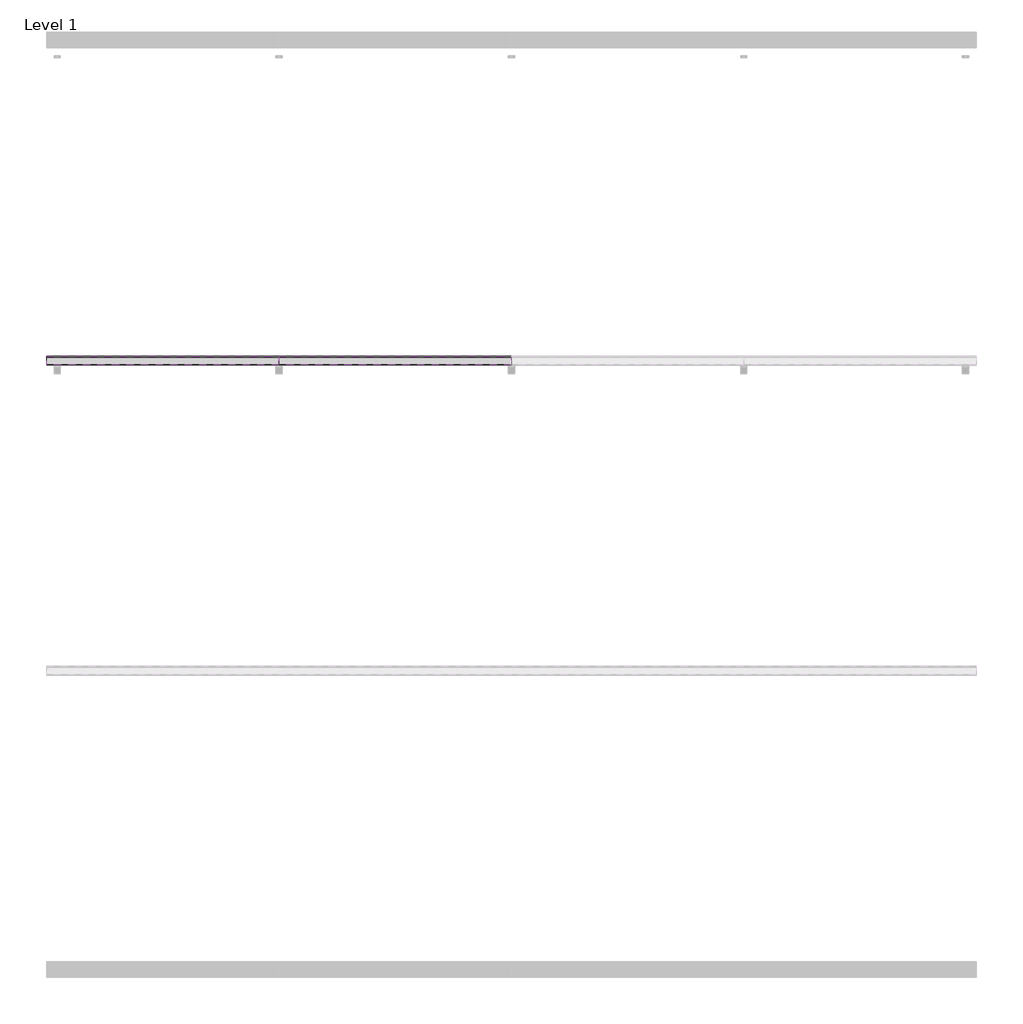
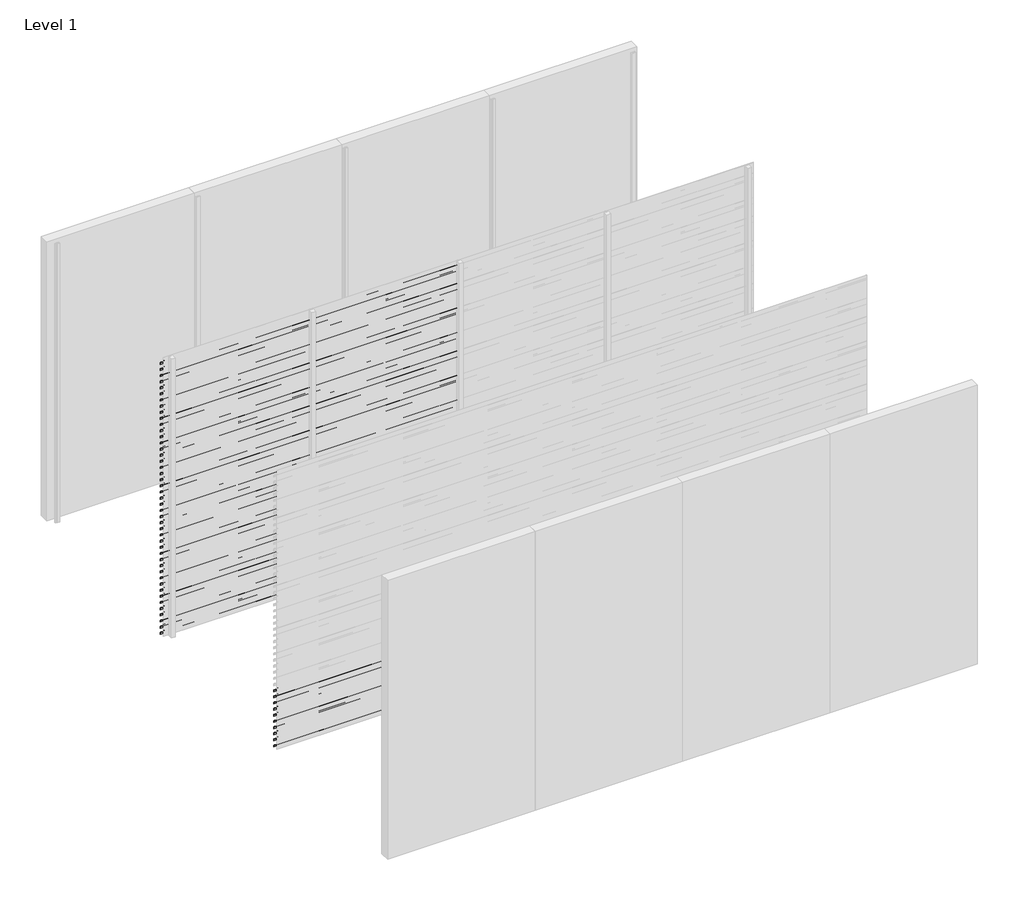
# One storey, part 11 of 25: 87 proxies.
"""IFC4 building model written with IfcOpenShell, lengths in millimetres."""

from ifc_helpers import new_model, si_unit, frame, origin, place, context, project, spatial, polyline, outline, extrude, element, save

model = new_model("IFC4")

# Units and contexts
model_context = context("Model", 3, world=origin())
ifc_project = project(units=[si_unit("LENGTHUNIT", "METRE", prefix="MILLI")], contexts=[model_context])

# Site, building, storey
site = spatial("IfcSite", under=ifc_project)
building = spatial("IfcBuilding", under=site)
storey = spatial("IfcBuildingStorey", under=building, Name="Level 1", Elevation=0.0)

# Proxies
placement = place(None, origin())
element("IfcBuildingElementProxy", 1, Name="Wall Sweeps", at=placement, inside=storey, context=model_context, shape_type="SweptSolid", body=[
    extrude(outline(polyline([(-29943.0, 2913.5), (-29943.0, 2893.5), (-29944.25, 2894.2216933), (-29944.25, 2912.7872415), (-29998.0, 2950.3158044), (-29998.0, 2970.0), (-29996.75, 2970.0), (-29996.75, 2951.0285629), (-29943.0, 2913.5)])), frame((0.0, 0.0, 0.0), z_axis=(1.0, 0.0, 0.0), x_axis=(0.0, 1.0, 0.0)), (0.0, 0.0, 1.0), 1500.0),
])
element("IfcBuildingElementProxy", 2, Name="Wall Sweeps", at=placement, inside=storey, context=model_context, shape_type="SweptSolid", body=[
    extrude(outline(polyline([(-29943.0, 2847.5), (-29943.0, 2827.5), (-29944.25, 2828.2216933), (-29944.25, 2846.7872415), (-29998.0, 2884.3158044), (-29998.0, 2904.0), (-29996.75, 2904.0), (-29996.75, 2885.0285629), (-29943.0, 2847.5)])), frame((0.0, 0.0, 0.0), z_axis=(1.0, 0.0, 0.0), x_axis=(0.0, 1.0, 0.0)), (0.0, 0.0, 1.0), 1500.0),
])
element("IfcBuildingElementProxy", 3, Name="Wall Sweeps", at=placement, inside=storey, context=model_context, shape_type="SweptSolid", body=[
    extrude(outline(polyline([(-29943.0, 2781.5), (-29943.0, 2761.5), (-29944.25, 2762.2216933), (-29944.25, 2780.7872415), (-29998.0, 2818.3158044), (-29998.0, 2838.0), (-29996.75, 2838.0), (-29996.75, 2819.0285629), (-29943.0, 2781.5)])), frame((0.0, 0.0, 0.0), z_axis=(1.0, 0.0, 0.0), x_axis=(0.0, 1.0, 0.0)), (0.0, 0.0, 1.0), 1500.0),
])
element("IfcBuildingElementProxy", 4, Name="Wall Sweeps", at=placement, inside=storey, context=model_context, shape_type="SweptSolid", body=[
    extrude(outline(polyline([(-29943.0, 2715.5), (-29943.0, 2695.5), (-29944.25, 2696.2216933), (-29944.25, 2714.7872415), (-29998.0, 2752.3158044), (-29998.0, 2772.0), (-29996.75, 2772.0), (-29996.75, 2753.0285629), (-29943.0, 2715.5)])), frame((0.0, 0.0, 0.0), z_axis=(1.0, 0.0, 0.0), x_axis=(0.0, 1.0, 0.0)), (0.0, 0.0, 1.0), 1500.0),
])
element("IfcBuildingElementProxy", 5, Name="Wall Sweeps", at=placement, inside=storey, context=model_context, shape_type="SweptSolid", body=[
    extrude(outline(polyline([(-29943.0, 2649.5), (-29943.0, 2629.5), (-29944.25, 2630.2216933), (-29944.25, 2648.7872415), (-29998.0, 2686.3158044), (-29998.0, 2706.0), (-29996.75, 2706.0), (-29996.75, 2687.0285629), (-29943.0, 2649.5)])), frame((0.0, 0.0, 0.0), z_axis=(1.0, 0.0, 0.0), x_axis=(0.0, 1.0, 0.0)), (0.0, 0.0, 1.0), 1500.0),
])
element("IfcBuildingElementProxy", 6, Name="Wall Sweeps", at=placement, inside=storey, context=model_context, shape_type="SweptSolid", body=[
    extrude(outline(polyline([(-29943.0, 2583.5), (-29943.0, 2563.5), (-29944.25, 2564.2216933), (-29944.25, 2582.7872415), (-29998.0, 2620.3158044), (-29998.0, 2640.0), (-29996.75, 2640.0), (-29996.75, 2621.0285629), (-29943.0, 2583.5)])), frame((0.0, 0.0, 0.0), z_axis=(1.0, 0.0, 0.0), x_axis=(0.0, 1.0, 0.0)), (0.0, 0.0, 1.0), 1500.0),
])
element("IfcBuildingElementProxy", 7, Name="Wall Sweeps", at=placement, inside=storey, context=model_context, shape_type="SweptSolid", body=[
    extrude(outline(polyline([(-29943.0, 2517.5), (-29943.0, 2497.5), (-29944.25, 2498.2216933), (-29944.25, 2516.7872415), (-29998.0, 2554.3158044), (-29998.0, 2574.0), (-29996.75, 2574.0), (-29996.75, 2555.0285629), (-29943.0, 2517.5)])), frame((0.0, 0.0, 0.0), z_axis=(1.0, 0.0, 0.0), x_axis=(0.0, 1.0, 0.0)), (0.0, 0.0, 1.0), 1500.0),
])
element("IfcBuildingElementProxy", 8, Name="Wall Sweeps", at=placement, inside=storey, context=model_context, shape_type="SweptSolid", body=[
    extrude(outline(polyline([(-29943.0, 2451.5), (-29943.0, 2431.5), (-29944.25, 2432.2216933), (-29944.25, 2450.7872415), (-29998.0, 2488.3158044), (-29998.0, 2508.0), (-29996.75, 2508.0), (-29996.75, 2489.0285629), (-29943.0, 2451.5)])), frame((0.0, 0.0, 0.0), z_axis=(1.0, 0.0, 0.0), x_axis=(0.0, 1.0, 0.0)), (0.0, 0.0, 1.0), 1500.0),
])
element("IfcBuildingElementProxy", 9, Name="Wall Sweeps", at=placement, inside=storey, context=model_context, shape_type="SweptSolid", body=[
    extrude(outline(polyline([(-29943.0, 2385.5), (-29943.0, 2365.5), (-29944.25, 2366.2216933), (-29944.25, 2384.7872415), (-29998.0, 2422.3158044), (-29998.0, 2442.0), (-29996.75, 2442.0), (-29996.75, 2423.0285629), (-29943.0, 2385.5)])), frame((0.0, 0.0, 0.0), z_axis=(1.0, 0.0, 0.0), x_axis=(0.0, 1.0, 0.0)), (0.0, 0.0, 1.0), 1500.0),
])
element("IfcBuildingElementProxy", 10, Name="Wall Sweeps", at=placement, inside=storey, context=model_context, shape_type="SweptSolid", body=[
    extrude(outline(polyline([(-29943.0, 2319.5), (-29943.0, 2299.5), (-29944.25, 2300.2216933), (-29944.25, 2318.7872415), (-29998.0, 2356.3158044), (-29998.0, 2376.0), (-29996.75, 2376.0), (-29996.75, 2357.0285629), (-29943.0, 2319.5)])), frame((0.0, 0.0, 0.0), z_axis=(1.0, 0.0, 0.0), x_axis=(0.0, 1.0, 0.0)), (0.0, 0.0, 1.0), 1500.0),
])
element("IfcBuildingElementProxy", 11, Name="Wall Sweeps", at=placement, inside=storey, context=model_context, shape_type="SweptSolid", body=[
    extrude(outline(polyline([(-29943.0, 2253.5), (-29943.0, 2233.5), (-29944.25, 2234.2216933), (-29944.25, 2252.7872415), (-29998.0, 2290.3158044), (-29998.0, 2310.0), (-29996.75, 2310.0), (-29996.75, 2291.0285629), (-29943.0, 2253.5)])), frame((0.0, 0.0, 0.0), z_axis=(1.0, 0.0, 0.0), x_axis=(0.0, 1.0, 0.0)), (0.0, 0.0, 1.0), 1500.0),
])
element("IfcBuildingElementProxy", 12, Name="Wall Sweeps", at=placement, inside=storey, context=model_context, shape_type="SweptSolid", body=[
    extrude(outline(polyline([(-29943.0, 2187.5), (-29943.0, 2167.5), (-29944.25, 2168.2216933), (-29944.25, 2186.7872415), (-29998.0, 2224.3158044), (-29998.0, 2244.0), (-29996.75, 2244.0), (-29996.75, 2225.0285629), (-29943.0, 2187.5)])), frame((0.0, 0.0, 0.0), z_axis=(1.0, 0.0, 0.0), x_axis=(0.0, 1.0, 0.0)), (0.0, 0.0, 1.0), 1500.0),
])
element("IfcBuildingElementProxy", 13, Name="Wall Sweeps", at=placement, inside=storey, context=model_context, shape_type="SweptSolid", body=[
    extrude(outline(polyline([(-29943.0, 2121.5), (-29943.0, 2101.5), (-29944.25, 2102.2216933), (-29944.25, 2120.7872415), (-29998.0, 2158.3158044), (-29998.0, 2178.0), (-29996.75, 2178.0), (-29996.75, 2159.0285629), (-29943.0, 2121.5)])), frame((0.0, 0.0, 0.0), z_axis=(1.0, 0.0, 0.0), x_axis=(0.0, 1.0, 0.0)), (0.0, 0.0, 1.0), 1500.0),
])
element("IfcBuildingElementProxy", 14, Name="Wall Sweeps", at=placement, inside=storey, context=model_context, shape_type="SweptSolid", body=[
    extrude(outline(polyline([(-29943.0, 2055.5), (-29943.0, 2035.5), (-29944.25, 2036.2216933), (-29944.25, 2054.7872415), (-29998.0, 2092.3158044), (-29998.0, 2112.0), (-29996.75, 2112.0), (-29996.75, 2093.0285629), (-29943.0, 2055.5)])), frame((0.0, 0.0, 0.0), z_axis=(1.0, 0.0, 0.0), x_axis=(0.0, 1.0, 0.0)), (0.0, 0.0, 1.0), 1500.0),
])
element("IfcBuildingElementProxy", 15, Name="Wall Sweeps", at=placement, inside=storey, context=model_context, shape_type="SweptSolid", body=[
    extrude(outline(polyline([(-29943.0, 1989.5), (-29943.0, 1969.5), (-29944.25, 1970.2216933), (-29944.25, 1988.7872415), (-29998.0, 2026.3158044), (-29998.0, 2046.0), (-29996.75, 2046.0), (-29996.75, 2027.0285629), (-29943.0, 1989.5)])), frame((0.0, 0.0, 0.0), z_axis=(1.0, 0.0, 0.0), x_axis=(0.0, 1.0, 0.0)), (0.0, 0.0, 1.0), 1500.0),
])
element("IfcBuildingElementProxy", 16, Name="Wall Sweeps", at=placement, inside=storey, context=model_context, shape_type="SweptSolid", body=[
    extrude(outline(polyline([(-29943.0, 1923.5), (-29943.0, 1903.5), (-29944.25, 1904.2216933), (-29944.25, 1922.7872415), (-29998.0, 1960.3158044), (-29998.0, 1980.0), (-29996.75, 1980.0), (-29996.75, 1961.0285629), (-29943.0, 1923.5)])), frame((0.0, 0.0, 0.0), z_axis=(1.0, 0.0, 0.0), x_axis=(0.0, 1.0, 0.0)), (0.0, 0.0, 1.0), 1500.0),
])
element("IfcBuildingElementProxy", 17, Name="Wall Sweeps", at=placement, inside=storey, context=model_context, shape_type="SweptSolid", body=[
    extrude(outline(polyline([(-29943.0, 1857.5), (-29943.0, 1837.5), (-29944.25, 1838.2216933), (-29944.25, 1856.7872415), (-29998.0, 1894.3158044), (-29998.0, 1914.0), (-29996.75, 1914.0), (-29996.75, 1895.0285629), (-29943.0, 1857.5)])), frame((0.0, 0.0, 0.0), z_axis=(1.0, 0.0, 0.0), x_axis=(0.0, 1.0, 0.0)), (0.0, 0.0, 1.0), 1500.0),
])
element("IfcBuildingElementProxy", 18, Name="Wall Sweeps", at=placement, inside=storey, context=model_context, shape_type="SweptSolid", body=[
    extrude(outline(polyline([(-29943.0, 1791.5), (-29943.0, 1771.5), (-29944.25, 1772.2216933), (-29944.25, 1790.7872415), (-29998.0, 1828.3158044), (-29998.0, 1848.0), (-29996.75, 1848.0), (-29996.75, 1829.0285629), (-29943.0, 1791.5)])), frame((0.0, 0.0, 0.0), z_axis=(1.0, 0.0, 0.0), x_axis=(0.0, 1.0, 0.0)), (0.0, 0.0, 1.0), 1500.0),
])
element("IfcBuildingElementProxy", 19, Name="Wall Sweeps", at=placement, inside=storey, context=model_context, shape_type="SweptSolid", body=[
    extrude(outline(polyline([(-29943.0, 1725.5), (-29943.0, 1705.5), (-29944.25, 1706.2216933), (-29944.25, 1724.7872415), (-29998.0, 1762.3158044), (-29998.0, 1782.0), (-29996.75, 1782.0), (-29996.75, 1763.0285629), (-29943.0, 1725.5)])), frame((0.0, 0.0, 0.0), z_axis=(1.0, 0.0, 0.0), x_axis=(0.0, 1.0, 0.0)), (0.0, 0.0, 1.0), 1500.0),
])
element("IfcBuildingElementProxy", 20, Name="Wall Sweeps", at=placement, inside=storey, context=model_context, shape_type="SweptSolid", body=[
    extrude(outline(polyline([(-29943.0, 1659.5), (-29943.0, 1639.5), (-29944.25, 1640.2216933), (-29944.25, 1658.7872415), (-29998.0, 1696.3158044), (-29998.0, 1716.0), (-29996.75, 1716.0), (-29996.75, 1697.0285629), (-29943.0, 1659.5)])), frame((0.0, 0.0, 0.0), z_axis=(1.0, 0.0, 0.0), x_axis=(0.0, 1.0, 0.0)), (0.0, 0.0, 1.0), 1500.0),
])
element("IfcBuildingElementProxy", 21, Name="Wall Sweeps", at=placement, inside=storey, context=model_context, shape_type="SweptSolid", body=[
    extrude(outline(polyline([(-29943.0, 1593.5), (-29943.0, 1573.5), (-29944.25, 1574.2216933), (-29944.25, 1592.7872415), (-29998.0, 1630.3158044), (-29998.0, 1650.0), (-29996.75, 1650.0), (-29996.75, 1631.0285629), (-29943.0, 1593.5)])), frame((0.0, 0.0, 0.0), z_axis=(1.0, 0.0, 0.0), x_axis=(0.0, 1.0, 0.0)), (0.0, 0.0, 1.0), 1500.0),
])
element("IfcBuildingElementProxy", 22, Name="Wall Sweeps", at=placement, inside=storey, context=model_context, shape_type="SweptSolid", body=[
    extrude(outline(polyline([(-29943.0, 1527.5), (-29943.0, 1507.5), (-29944.25, 1508.2216933), (-29944.25, 1526.7872415), (-29998.0, 1564.3158044), (-29998.0, 1584.0), (-29996.75, 1584.0), (-29996.75, 1565.0285629), (-29943.0, 1527.5)])), frame((0.0, 0.0, 0.0), z_axis=(1.0, 0.0, 0.0), x_axis=(0.0, 1.0, 0.0)), (0.0, 0.0, 1.0), 1500.0),
])
element("IfcBuildingElementProxy", 23, Name="Wall Sweeps", at=placement, inside=storey, context=model_context, shape_type="SweptSolid", body=[
    extrude(outline(polyline([(-29943.0, 1461.5), (-29943.0, 1441.5), (-29944.25, 1442.2216933), (-29944.25, 1460.7872415), (-29998.0, 1498.3158044), (-29998.0, 1518.0), (-29996.75, 1518.0), (-29996.75, 1499.0285629), (-29943.0, 1461.5)])), frame((0.0, 0.0, 0.0), z_axis=(1.0, 0.0, 0.0), x_axis=(0.0, 1.0, 0.0)), (0.0, 0.0, 1.0), 1500.0),
])
element("IfcBuildingElementProxy", 24, Name="Wall Sweeps", at=placement, inside=storey, context=model_context, shape_type="SweptSolid", body=[
    extrude(outline(polyline([(-29943.0, 1395.5), (-29943.0, 1375.5), (-29944.25, 1376.2216933), (-29944.25, 1394.7872415), (-29998.0, 1432.3158044), (-29998.0, 1452.0), (-29996.75, 1452.0), (-29996.75, 1433.0285629), (-29943.0, 1395.5)])), frame((0.0, 0.0, 0.0), z_axis=(1.0, 0.0, 0.0), x_axis=(0.0, 1.0, 0.0)), (0.0, 0.0, 1.0), 1500.0),
])
element("IfcBuildingElementProxy", 25, Name="Wall Sweeps", at=placement, inside=storey, context=model_context, shape_type="SweptSolid", body=[
    extrude(outline(polyline([(-29943.0, 1329.5), (-29943.0, 1309.5), (-29944.25, 1310.2216933), (-29944.25, 1328.7872415), (-29998.0, 1366.3158044), (-29998.0, 1386.0), (-29996.75, 1386.0), (-29996.75, 1367.0285629), (-29943.0, 1329.5)])), frame((0.0, 0.0, 0.0), z_axis=(1.0, 0.0, 0.0), x_axis=(0.0, 1.0, 0.0)), (0.0, 0.0, 1.0), 1500.0),
])
element("IfcBuildingElementProxy", 26, Name="Wall Sweeps", at=placement, inside=storey, context=model_context, shape_type="SweptSolid", body=[
    extrude(outline(polyline([(-29943.0, 1263.5), (-29943.0, 1243.5), (-29944.25, 1244.2216933), (-29944.25, 1262.7872415), (-29998.0, 1300.3158044), (-29998.0, 1320.0), (-29996.75, 1320.0), (-29996.75, 1301.0285629), (-29943.0, 1263.5)])), frame((0.0, 0.0, 0.0), z_axis=(1.0, 0.0, 0.0), x_axis=(0.0, 1.0, 0.0)), (0.0, 0.0, 1.0), 1500.0),
])
element("IfcBuildingElementProxy", 27, Name="Wall Sweeps", at=placement, inside=storey, context=model_context, shape_type="SweptSolid", body=[
    extrude(outline(polyline([(-29943.0, 1197.5), (-29943.0, 1177.5), (-29944.25, 1178.2216933), (-29944.25, 1196.7872415), (-29998.0, 1234.3158044), (-29998.0, 1254.0), (-29996.75, 1254.0), (-29996.75, 1235.0285629), (-29943.0, 1197.5)])), frame((0.0, 0.0, 0.0), z_axis=(1.0, 0.0, 0.0), x_axis=(0.0, 1.0, 0.0)), (0.0, 0.0, 1.0), 1500.0),
])
element("IfcBuildingElementProxy", 28, Name="Wall Sweeps", at=placement, inside=storey, context=model_context, shape_type="SweptSolid", body=[
    extrude(outline(polyline([(-29943.0, 1131.5), (-29943.0, 1111.5), (-29944.25, 1112.2216933), (-29944.25, 1130.7872415), (-29998.0, 1168.3158044), (-29998.0, 1188.0), (-29996.75, 1188.0), (-29996.75, 1169.0285629), (-29943.0, 1131.5)])), frame((0.0, 0.0, 0.0), z_axis=(1.0, 0.0, 0.0), x_axis=(0.0, 1.0, 0.0)), (0.0, 0.0, 1.0), 1500.0),
])
element("IfcBuildingElementProxy", 29, Name="Wall Sweeps", at=placement, inside=storey, context=model_context, shape_type="SweptSolid", body=[
    extrude(outline(polyline([(-29943.0, 1065.5), (-29943.0, 1045.5), (-29944.25, 1046.2216933), (-29944.25, 1064.7872415), (-29998.0, 1102.3158044), (-29998.0, 1122.0), (-29996.75, 1122.0), (-29996.75, 1103.0285629), (-29943.0, 1065.5)])), frame((0.0, 0.0, 0.0), z_axis=(1.0, 0.0, 0.0), x_axis=(0.0, 1.0, 0.0)), (0.0, 0.0, 1.0), 1500.0),
])
element("IfcBuildingElementProxy", 30, Name="Wall Sweeps", at=placement, inside=storey, context=model_context, shape_type="SweptSolid", body=[
    extrude(outline(polyline([(-29943.0, 999.5), (-29943.0, 979.5), (-29944.25, 980.2216933), (-29944.25, 998.7872415), (-29998.0, 1036.3158044), (-29998.0, 1056.0), (-29996.75, 1056.0), (-29996.75, 1037.0285629), (-29943.0, 999.5)])), frame((0.0, 0.0, 0.0), z_axis=(1.0, 0.0, 0.0), x_axis=(0.0, 1.0, 0.0)), (0.0, 0.0, 1.0), 1500.0),
])
element("IfcBuildingElementProxy", 31, Name="Wall Sweeps", at=placement, inside=storey, context=model_context, shape_type="SweptSolid", body=[
    extrude(outline(polyline([(-29943.0, 933.5), (-29943.0, 913.5), (-29944.25, 914.2216933), (-29944.25, 932.7872415), (-29998.0, 970.3158044), (-29998.0, 990.0), (-29996.75, 990.0), (-29996.75, 971.0285629), (-29943.0, 933.5)])), frame((0.0, 0.0, 0.0), z_axis=(1.0, 0.0, 0.0), x_axis=(0.0, 1.0, 0.0)), (0.0, 0.0, 1.0), 1500.0),
])
element("IfcBuildingElementProxy", 32, Name="Wall Sweeps", at=placement, inside=storey, context=model_context, shape_type="SweptSolid", body=[
    extrude(outline(polyline([(-29943.0, 867.5), (-29943.0, 847.5), (-29944.25, 848.2216933), (-29944.25, 866.7872415), (-29998.0, 904.3158044), (-29998.0, 924.0), (-29996.75, 924.0), (-29996.75, 905.0285629), (-29943.0, 867.5)])), frame((0.0, 0.0, 0.0), z_axis=(1.0, 0.0, 0.0), x_axis=(0.0, 1.0, 0.0)), (0.0, 0.0, 1.0), 1500.0),
])
element("IfcBuildingElementProxy", 33, Name="Wall Sweeps", at=placement, inside=storey, context=model_context, shape_type="SweptSolid", body=[
    extrude(outline(polyline([(-29943.0, 801.5), (-29943.0, 781.5), (-29944.25, 782.2216933), (-29944.25, 800.7872415), (-29998.0, 838.3158044), (-29998.0, 858.0), (-29996.75, 858.0), (-29996.75, 839.0285629), (-29943.0, 801.5)])), frame((0.0, 0.0, 0.0), z_axis=(1.0, 0.0, 0.0), x_axis=(0.0, 1.0, 0.0)), (0.0, 0.0, 1.0), 1500.0),
])
element("IfcBuildingElementProxy", 34, Name="Wall Sweeps", at=placement, inside=storey, context=model_context, shape_type="SweptSolid", body=[
    extrude(outline(polyline([(-29943.0, 735.5), (-29943.0, 715.5), (-29944.25, 716.2216933), (-29944.25, 734.7872415), (-29998.0, 772.3158044), (-29998.0, 792.0), (-29996.75, 792.0), (-29996.75, 773.0285629), (-29943.0, 735.5)])), frame((0.0, 0.0, 0.0), z_axis=(1.0, 0.0, 0.0), x_axis=(0.0, 1.0, 0.0)), (0.0, 0.0, 1.0), 1500.0),
])
element("IfcBuildingElementProxy", 35, Name="Wall Sweeps", at=placement, inside=storey, context=model_context, shape_type="SweptSolid", body=[
    extrude(outline(polyline([(-29943.0, 669.5), (-29943.0, 649.5), (-29944.25, 650.2216933), (-29944.25, 668.7872415), (-29998.0, 706.3158044), (-29998.0, 726.0), (-29996.75, 726.0), (-29996.75, 707.0285629), (-29943.0, 669.5)])), frame((0.0, 0.0, 0.0), z_axis=(1.0, 0.0, 0.0), x_axis=(0.0, 1.0, 0.0)), (0.0, 0.0, 1.0), 1500.0),
])
element("IfcBuildingElementProxy", 36, Name="Wall Sweeps", at=placement, inside=storey, context=model_context, shape_type="SweptSolid", body=[
    extrude(outline(polyline([(-29943.0, 603.5), (-29943.0, 583.5), (-29944.25, 584.2216933), (-29944.25, 602.7872415), (-29998.0, 640.3158044), (-29998.0, 660.0), (-29996.75, 660.0), (-29996.75, 641.0285629), (-29943.0, 603.5)])), frame((0.0, 0.0, 0.0), z_axis=(1.0, 0.0, 0.0), x_axis=(0.0, 1.0, 0.0)), (0.0, 0.0, 1.0), 1500.0),
])
element("IfcBuildingElementProxy", 37, Name="Wall Sweeps", at=placement, inside=storey, context=model_context, shape_type="SweptSolid", body=[
    extrude(outline(polyline([(-29943.0, 537.5), (-29943.0, 517.5), (-29944.25, 518.2216933), (-29944.25, 536.7872415), (-29998.0, 574.3158044), (-29998.0, 594.0), (-29996.75, 594.0), (-29996.75, 575.0285629), (-29943.0, 537.5)])), frame((0.0, 0.0, 0.0), z_axis=(1.0, 0.0, 0.0), x_axis=(0.0, 1.0, 0.0)), (0.0, 0.0, 1.0), 1500.0),
])
element("IfcBuildingElementProxy", 38, Name="Wall Sweeps", at=placement, inside=storey, context=model_context, shape_type="SweptSolid", body=[
    extrude(outline(polyline([(-29943.0, 471.5), (-29943.0, 451.5), (-29944.25, 452.2216933), (-29944.25, 470.7872415), (-29998.0, 508.3158044), (-29998.0, 528.0), (-29996.75, 528.0), (-29996.75, 509.0285629), (-29943.0, 471.5)])), frame((0.0, 0.0, 0.0), z_axis=(1.0, 0.0, 0.0), x_axis=(0.0, 1.0, 0.0)), (0.0, 0.0, 1.0), 1500.0),
])
element("IfcBuildingElementProxy", 39, Name="Wall Sweeps", at=placement, inside=storey, context=model_context, shape_type="SweptSolid", body=[
    extrude(outline(polyline([(-29943.0, 405.5), (-29943.0, 385.5), (-29944.25, 386.2216933), (-29944.25, 404.7872415), (-29998.0, 442.3158044), (-29998.0, 462.0), (-29996.75, 462.0), (-29996.75, 443.0285629), (-29943.0, 405.5)])), frame((0.0, 0.0, 0.0), z_axis=(1.0, 0.0, 0.0), x_axis=(0.0, 1.0, 0.0)), (0.0, 0.0, 1.0), 1500.0),
])
element("IfcBuildingElementProxy", 40, Name="Wall Sweeps", at=placement, inside=storey, context=model_context, shape_type="SweptSolid", body=[
    extrude(outline(polyline([(-29943.0, 339.5), (-29943.0, 319.5), (-29944.25, 320.2216933), (-29944.25, 338.7872415), (-29998.0, 376.3158044), (-29998.0, 396.0), (-29996.75, 396.0), (-29996.75, 377.0285629), (-29943.0, 339.5)])), frame((0.0, 0.0, 0.0), z_axis=(1.0, 0.0, 0.0), x_axis=(0.0, 1.0, 0.0)), (0.0, 0.0, 1.0), 1500.0),
])
element("IfcBuildingElementProxy", 41, Name="Wall Sweeps", at=placement, inside=storey, context=model_context, shape_type="SweptSolid", body=[
    extrude(outline(polyline([(-29943.0, 273.5), (-29943.0, 253.5), (-29944.25, 254.2216933), (-29944.25, 272.7872415), (-29998.0, 310.3158044), (-29998.0, 330.0), (-29996.75, 330.0), (-29996.75, 311.0285629), (-29943.0, 273.5)])), frame((0.0, 0.0, 0.0), z_axis=(1.0, 0.0, 0.0), x_axis=(0.0, 1.0, 0.0)), (0.0, 0.0, 1.0), 1500.0),
])
element("IfcBuildingElementProxy", 42, Name="Wall Sweeps", at=placement, inside=storey, context=model_context, shape_type="SweptSolid", body=[
    extrude(outline(polyline([(-29943.0, 207.5), (-29943.0, 187.5), (-29944.25, 188.2216933), (-29944.25, 206.7872415), (-29998.0, 244.3158044), (-29998.0, 264.0), (-29996.75, 264.0), (-29996.75, 245.0285629), (-29943.0, 207.5)])), frame((0.0, 0.0, 0.0), z_axis=(1.0, 0.0, 0.0), x_axis=(0.0, 1.0, 0.0)), (0.0, 0.0, 1.0), 1500.0),
])
element("IfcBuildingElementProxy", 43, Name="Wall Sweeps", at=placement, inside=storey, context=model_context, shape_type="SweptSolid", body=[
    extrude(outline(polyline([(-29943.0, 141.5), (-29943.0, 121.5), (-29944.25, 122.2216933), (-29944.25, 140.7872415), (-29998.0, 178.3158044), (-29998.0, 198.0), (-29996.75, 198.0), (-29996.75, 179.0285629), (-29943.0, 141.5)])), frame((0.0, 0.0, 0.0), z_axis=(1.0, 0.0, 0.0), x_axis=(0.0, 1.0, 0.0)), (0.0, 0.0, 1.0), 1500.0),
])
element("IfcBuildingElementProxy", 44, Name="Wall Sweeps", at=placement, inside=storey, context=model_context, shape_type="SweptSolid", body=[
    extrude(outline(polyline([(-29943.0, 75.5), (-29943.0, 55.5), (-29944.25, 56.2216933), (-29944.25, 74.7872415), (-29998.0, 112.3158044), (-29998.0, 132.0), (-29996.75, 132.0), (-29996.75, 113.0285629), (-29943.0, 75.5)])), frame((0.0, 0.0, 0.0), z_axis=(1.0, 0.0, 0.0), x_axis=(0.0, 1.0, 0.0)), (0.0, 0.0, 1.0), 1500.0),
])
element("IfcBuildingElementProxy", 45, Name="Wall Sweeps", at=placement, inside=storey, context=model_context, shape_type="SweptSolid", body=[
    extrude(outline(polyline([(-29943.0, 9.5), (-29943.0, -10.5), (-29944.25, -9.7783067), (-29944.25, 8.7872415), (-29998.0, 46.3158044), (-29998.0, 66.0), (-29996.75, 66.0), (-29996.75, 47.0285629), (-29943.0, 9.5)])), frame((0.0, 0.0, 0.0), z_axis=(1.0, 0.0, 0.0), x_axis=(0.0, 1.0, 0.0)), (0.0, 0.0, 1.0), 1500.0),
])
element("IfcBuildingElementProxy", 46, Name="Wall Sweeps", at=placement, inside=storey, context=model_context, shape_type="SweptSolid", body=[
    extrude(outline(polyline([(-29943.0, 2913.5), (-29943.0, 2893.5), (-29944.25, 2894.2216933), (-29944.25, 2912.7872415), (-29998.0, 2950.3158044), (-29998.0, 2970.0), (-29996.75, 2970.0), (-29996.75, 2951.0285629), (-29943.0, 2913.5)])), frame((1500.0, 0.0, 0.0), z_axis=(1.0, 0.0, 0.0), x_axis=(0.0, 1.0, 0.0)), (0.0, 0.0, 1.0), 1500.0),
])
element("IfcBuildingElementProxy", 47, Name="Wall Sweeps", at=placement, inside=storey, context=model_context, shape_type="SweptSolid", body=[
    extrude(outline(polyline([(-29943.0, 2847.5), (-29943.0, 2827.5), (-29944.25, 2828.2216933), (-29944.25, 2846.7872415), (-29998.0, 2884.3158044), (-29998.0, 2904.0), (-29996.75, 2904.0), (-29996.75, 2885.0285629), (-29943.0, 2847.5)])), frame((1500.0, 0.0, 0.0), z_axis=(1.0, 0.0, 0.0), x_axis=(0.0, 1.0, 0.0)), (0.0, 0.0, 1.0), 1500.0),
])
element("IfcBuildingElementProxy", 48, Name="Wall Sweeps", at=placement, inside=storey, context=model_context, shape_type="SweptSolid", body=[
    extrude(outline(polyline([(-29943.0, 2781.5), (-29943.0, 2761.5), (-29944.25, 2762.2216933), (-29944.25, 2780.7872415), (-29998.0, 2818.3158044), (-29998.0, 2838.0), (-29996.75, 2838.0), (-29996.75, 2819.0285629), (-29943.0, 2781.5)])), frame((1500.0, 0.0, 0.0), z_axis=(1.0, 0.0, 0.0), x_axis=(0.0, 1.0, 0.0)), (0.0, 0.0, 1.0), 1500.0),
])
element("IfcBuildingElementProxy", 49, Name="Wall Sweeps", at=placement, inside=storey, context=model_context, shape_type="SweptSolid", body=[
    extrude(outline(polyline([(-29943.0, 2715.5), (-29943.0, 2695.5), (-29944.25, 2696.2216933), (-29944.25, 2714.7872415), (-29998.0, 2752.3158044), (-29998.0, 2772.0), (-29996.75, 2772.0), (-29996.75, 2753.0285629), (-29943.0, 2715.5)])), frame((1500.0, 0.0, 0.0), z_axis=(1.0, 0.0, 0.0), x_axis=(0.0, 1.0, 0.0)), (0.0, 0.0, 1.0), 1500.0),
])
element("IfcBuildingElementProxy", 50, Name="Wall Sweeps", at=placement, inside=storey, context=model_context, shape_type="SweptSolid", body=[
    extrude(outline(polyline([(-29943.0, 2649.5), (-29943.0, 2629.5), (-29944.25, 2630.2216933), (-29944.25, 2648.7872415), (-29998.0, 2686.3158044), (-29998.0, 2706.0), (-29996.75, 2706.0), (-29996.75, 2687.0285629), (-29943.0, 2649.5)])), frame((1500.0, 0.0, 0.0), z_axis=(1.0, 0.0, 0.0), x_axis=(0.0, 1.0, 0.0)), (0.0, 0.0, 1.0), 1500.0),
])
element("IfcBuildingElementProxy", 51, Name="Wall Sweeps", at=placement, inside=storey, context=model_context, shape_type="SweptSolid", body=[
    extrude(outline(polyline([(-29943.0, 2583.5), (-29943.0, 2563.5), (-29944.25, 2564.2216933), (-29944.25, 2582.7872415), (-29998.0, 2620.3158044), (-29998.0, 2640.0), (-29996.75, 2640.0), (-29996.75, 2621.0285629), (-29943.0, 2583.5)])), frame((1500.0, 0.0, 0.0), z_axis=(1.0, 0.0, 0.0), x_axis=(0.0, 1.0, 0.0)), (0.0, 0.0, 1.0), 1500.0),
])
element("IfcBuildingElementProxy", 52, Name="Wall Sweeps", at=placement, inside=storey, context=model_context, shape_type="SweptSolid", body=[
    extrude(outline(polyline([(-29943.0, 2517.5), (-29943.0, 2497.5), (-29944.25, 2498.2216933), (-29944.25, 2516.7872415), (-29998.0, 2554.3158044), (-29998.0, 2574.0), (-29996.75, 2574.0), (-29996.75, 2555.0285629), (-29943.0, 2517.5)])), frame((1500.0, 0.0, 0.0), z_axis=(1.0, 0.0, 0.0), x_axis=(0.0, 1.0, 0.0)), (0.0, 0.0, 1.0), 1500.0),
])
element("IfcBuildingElementProxy", 53, Name="Wall Sweeps", at=placement, inside=storey, context=model_context, shape_type="SweptSolid", body=[
    extrude(outline(polyline([(-29943.0, 2451.5), (-29943.0, 2431.5), (-29944.25, 2432.2216933), (-29944.25, 2450.7872415), (-29998.0, 2488.3158044), (-29998.0, 2508.0), (-29996.75, 2508.0), (-29996.75, 2489.0285629), (-29943.0, 2451.5)])), frame((1500.0, 0.0, 0.0), z_axis=(1.0, 0.0, 0.0), x_axis=(0.0, 1.0, 0.0)), (0.0, 0.0, 1.0), 1500.0),
])
element("IfcBuildingElementProxy", 54, Name="Wall Sweeps", at=placement, inside=storey, context=model_context, shape_type="SweptSolid", body=[
    extrude(outline(polyline([(-29943.0, 2385.5), (-29943.0, 2365.5), (-29944.25, 2366.2216933), (-29944.25, 2384.7872415), (-29998.0, 2422.3158044), (-29998.0, 2442.0), (-29996.75, 2442.0), (-29996.75, 2423.0285629), (-29943.0, 2385.5)])), frame((1500.0, 0.0, 0.0), z_axis=(1.0, 0.0, 0.0), x_axis=(0.0, 1.0, 0.0)), (0.0, 0.0, 1.0), 1500.0),
])
element("IfcBuildingElementProxy", 55, Name="Wall Sweeps", at=placement, inside=storey, context=model_context, shape_type="SweptSolid", body=[
    extrude(outline(polyline([(-29943.0, 2319.5), (-29943.0, 2299.5), (-29944.25, 2300.2216933), (-29944.25, 2318.7872415), (-29998.0, 2356.3158044), (-29998.0, 2376.0), (-29996.75, 2376.0), (-29996.75, 2357.0285629), (-29943.0, 2319.5)])), frame((1500.0, 0.0, 0.0), z_axis=(1.0, 0.0, 0.0), x_axis=(0.0, 1.0, 0.0)), (0.0, 0.0, 1.0), 1500.0),
])
element("IfcBuildingElementProxy", 56, Name="Wall Sweeps", at=placement, inside=storey, context=model_context, shape_type="SweptSolid", body=[
    extrude(outline(polyline([(-29943.0, 2253.5), (-29943.0, 2233.5), (-29944.25, 2234.2216933), (-29944.25, 2252.7872415), (-29998.0, 2290.3158044), (-29998.0, 2310.0), (-29996.75, 2310.0), (-29996.75, 2291.0285629), (-29943.0, 2253.5)])), frame((1500.0, 0.0, 0.0), z_axis=(1.0, 0.0, 0.0), x_axis=(0.0, 1.0, 0.0)), (0.0, 0.0, 1.0), 1500.0),
])
element("IfcBuildingElementProxy", 57, Name="Wall Sweeps", at=placement, inside=storey, context=model_context, shape_type="SweptSolid", body=[
    extrude(outline(polyline([(-29943.0, 2187.5), (-29943.0, 2167.5), (-29944.25, 2168.2216933), (-29944.25, 2186.7872415), (-29998.0, 2224.3158044), (-29998.0, 2244.0), (-29996.75, 2244.0), (-29996.75, 2225.0285629), (-29943.0, 2187.5)])), frame((1500.0, 0.0, 0.0), z_axis=(1.0, 0.0, 0.0), x_axis=(0.0, 1.0, 0.0)), (0.0, 0.0, 1.0), 1500.0),
])
element("IfcBuildingElementProxy", 58, Name="Wall Sweeps", at=placement, inside=storey, context=model_context, shape_type="SweptSolid", body=[
    extrude(outline(polyline([(-29943.0, 2121.5), (-29943.0, 2101.5), (-29944.25, 2102.2216933), (-29944.25, 2120.7872415), (-29998.0, 2158.3158044), (-29998.0, 2178.0), (-29996.75, 2178.0), (-29996.75, 2159.0285629), (-29943.0, 2121.5)])), frame((1500.0, 0.0, 0.0), z_axis=(1.0, 0.0, 0.0), x_axis=(0.0, 1.0, 0.0)), (0.0, 0.0, 1.0), 1500.0),
])
element("IfcBuildingElementProxy", 59, Name="Wall Sweeps", at=placement, inside=storey, context=model_context, shape_type="SweptSolid", body=[
    extrude(outline(polyline([(-29943.0, 2055.5), (-29943.0, 2035.5), (-29944.25, 2036.2216933), (-29944.25, 2054.7872415), (-29998.0, 2092.3158044), (-29998.0, 2112.0), (-29996.75, 2112.0), (-29996.75, 2093.0285629), (-29943.0, 2055.5)])), frame((1500.0, 0.0, 0.0), z_axis=(1.0, 0.0, 0.0), x_axis=(0.0, 1.0, 0.0)), (0.0, 0.0, 1.0), 1500.0),
])
element("IfcBuildingElementProxy", 60, Name="Wall Sweeps", at=placement, inside=storey, context=model_context, shape_type="SweptSolid", body=[
    extrude(outline(polyline([(-29943.0, 1989.5), (-29943.0, 1969.5), (-29944.25, 1970.2216933), (-29944.25, 1988.7872415), (-29998.0, 2026.3158044), (-29998.0, 2046.0), (-29996.75, 2046.0), (-29996.75, 2027.0285629), (-29943.0, 1989.5)])), frame((1500.0, 0.0, 0.0), z_axis=(1.0, 0.0, 0.0), x_axis=(0.0, 1.0, 0.0)), (0.0, 0.0, 1.0), 1500.0),
])
element("IfcBuildingElementProxy", 61, Name="Wall Sweeps", at=placement, inside=storey, context=model_context, shape_type="SweptSolid", body=[
    extrude(outline(polyline([(-29943.0, 1923.5), (-29943.0, 1903.5), (-29944.25, 1904.2216933), (-29944.25, 1922.7872415), (-29998.0, 1960.3158044), (-29998.0, 1980.0), (-29996.75, 1980.0), (-29996.75, 1961.0285629), (-29943.0, 1923.5)])), frame((1500.0, 0.0, 0.0), z_axis=(1.0, 0.0, 0.0), x_axis=(0.0, 1.0, 0.0)), (0.0, 0.0, 1.0), 1500.0),
])
element("IfcBuildingElementProxy", 62, Name="Wall Sweeps", at=placement, inside=storey, context=model_context, shape_type="SweptSolid", body=[
    extrude(outline(polyline([(-29943.0, 1857.5), (-29943.0, 1837.5), (-29944.25, 1838.2216933), (-29944.25, 1856.7872415), (-29998.0, 1894.3158044), (-29998.0, 1914.0), (-29996.75, 1914.0), (-29996.75, 1895.0285629), (-29943.0, 1857.5)])), frame((1500.0, 0.0, 0.0), z_axis=(1.0, 0.0, 0.0), x_axis=(0.0, 1.0, 0.0)), (0.0, 0.0, 1.0), 1500.0),
])
element("IfcBuildingElementProxy", 63, Name="Wall Sweeps", at=placement, inside=storey, context=model_context, shape_type="SweptSolid", body=[
    extrude(outline(polyline([(-29943.0, 1791.5), (-29943.0, 1771.5), (-29944.25, 1772.2216933), (-29944.25, 1790.7872415), (-29998.0, 1828.3158044), (-29998.0, 1848.0), (-29996.75, 1848.0), (-29996.75, 1829.0285629), (-29943.0, 1791.5)])), frame((1500.0, 0.0, 0.0), z_axis=(1.0, 0.0, 0.0), x_axis=(0.0, 1.0, 0.0)), (0.0, 0.0, 1.0), 1500.0),
])
element("IfcBuildingElementProxy", 64, Name="Wall Sweeps", at=placement, inside=storey, context=model_context, shape_type="SweptSolid", body=[
    extrude(outline(polyline([(-29943.0, 1725.5), (-29943.0, 1705.5), (-29944.25, 1706.2216933), (-29944.25, 1724.7872415), (-29998.0, 1762.3158044), (-29998.0, 1782.0), (-29996.75, 1782.0), (-29996.75, 1763.0285629), (-29943.0, 1725.5)])), frame((1500.0, 0.0, 0.0), z_axis=(1.0, 0.0, 0.0), x_axis=(0.0, 1.0, 0.0)), (0.0, 0.0, 1.0), 1500.0),
])
element("IfcBuildingElementProxy", 65, Name="Wall Sweeps", at=placement, inside=storey, context=model_context, shape_type="SweptSolid", body=[
    extrude(outline(polyline([(-29943.0, 1659.5), (-29943.0, 1639.5), (-29944.25, 1640.2216933), (-29944.25, 1658.7872415), (-29998.0, 1696.3158044), (-29998.0, 1716.0), (-29996.75, 1716.0), (-29996.75, 1697.0285629), (-29943.0, 1659.5)])), frame((1500.0, 0.0, 0.0), z_axis=(1.0, 0.0, 0.0), x_axis=(0.0, 1.0, 0.0)), (0.0, 0.0, 1.0), 1500.0),
])
element("IfcBuildingElementProxy", 66, Name="Wall Sweeps", at=placement, inside=storey, context=model_context, shape_type="SweptSolid", body=[
    extrude(outline(polyline([(-29943.0, 1593.5), (-29943.0, 1573.5), (-29944.25, 1574.2216933), (-29944.25, 1592.7872415), (-29998.0, 1630.3158044), (-29998.0, 1650.0), (-29996.75, 1650.0), (-29996.75, 1631.0285629), (-29943.0, 1593.5)])), frame((1500.0, 0.0, 0.0), z_axis=(1.0, 0.0, 0.0), x_axis=(0.0, 1.0, 0.0)), (0.0, 0.0, 1.0), 1500.0),
])
element("IfcBuildingElementProxy", 67, Name="Wall Sweeps", at=placement, inside=storey, context=model_context, shape_type="SweptSolid", body=[
    extrude(outline(polyline([(-29943.0, 1527.5), (-29943.0, 1507.5), (-29944.25, 1508.2216933), (-29944.25, 1526.7872415), (-29998.0, 1564.3158044), (-29998.0, 1584.0), (-29996.75, 1584.0), (-29996.75, 1565.0285629), (-29943.0, 1527.5)])), frame((1500.0, 0.0, 0.0), z_axis=(1.0, 0.0, 0.0), x_axis=(0.0, 1.0, 0.0)), (0.0, 0.0, 1.0), 1500.0),
])
element("IfcBuildingElementProxy", 68, Name="Wall Sweeps", at=placement, inside=storey, context=model_context, shape_type="SweptSolid", body=[
    extrude(outline(polyline([(-29943.0, 1461.5), (-29943.0, 1441.5), (-29944.25, 1442.2216933), (-29944.25, 1460.7872415), (-29998.0, 1498.3158044), (-29998.0, 1518.0), (-29996.75, 1518.0), (-29996.75, 1499.0285629), (-29943.0, 1461.5)])), frame((1500.0, 0.0, 0.0), z_axis=(1.0, 0.0, 0.0), x_axis=(0.0, 1.0, 0.0)), (0.0, 0.0, 1.0), 1500.0),
])
element("IfcBuildingElementProxy", 69, Name="Wall Sweeps", at=placement, inside=storey, context=model_context, shape_type="SweptSolid", body=[
    extrude(outline(polyline([(-29943.0, 1395.5), (-29943.0, 1375.5), (-29944.25, 1376.2216933), (-29944.25, 1394.7872415), (-29998.0, 1432.3158044), (-29998.0, 1452.0), (-29996.75, 1452.0), (-29996.75, 1433.0285629), (-29943.0, 1395.5)])), frame((1500.0, 0.0, 0.0), z_axis=(1.0, 0.0, 0.0), x_axis=(0.0, 1.0, 0.0)), (0.0, 0.0, 1.0), 1500.0),
])
element("IfcBuildingElementProxy", 70, Name="Wall Sweeps", at=placement, inside=storey, context=model_context, shape_type="SweptSolid", body=[
    extrude(outline(polyline([(-29943.0, 1329.5), (-29943.0, 1309.5), (-29944.25, 1310.2216933), (-29944.25, 1328.7872415), (-29998.0, 1366.3158044), (-29998.0, 1386.0), (-29996.75, 1386.0), (-29996.75, 1367.0285629), (-29943.0, 1329.5)])), frame((1500.0, 0.0, 0.0), z_axis=(1.0, 0.0, 0.0), x_axis=(0.0, 1.0, 0.0)), (0.0, 0.0, 1.0), 1500.0),
])
element("IfcBuildingElementProxy", 71, Name="Wall Sweeps", at=placement, inside=storey, context=model_context, shape_type="SweptSolid", body=[
    extrude(outline(polyline([(-29943.0, 1263.5), (-29943.0, 1243.5), (-29944.25, 1244.2216933), (-29944.25, 1262.7872415), (-29998.0, 1300.3158044), (-29998.0, 1320.0), (-29996.75, 1320.0), (-29996.75, 1301.0285629), (-29943.0, 1263.5)])), frame((1500.0, 0.0, 0.0), z_axis=(1.0, 0.0, 0.0), x_axis=(0.0, 1.0, 0.0)), (0.0, 0.0, 1.0), 1500.0),
])
element("IfcBuildingElementProxy", 72, Name="Wall Sweeps", at=placement, inside=storey, context=model_context, shape_type="SweptSolid", body=[
    extrude(outline(polyline([(-29943.0, 1197.5), (-29943.0, 1177.5), (-29944.25, 1178.2216933), (-29944.25, 1196.7872415), (-29998.0, 1234.3158044), (-29998.0, 1254.0), (-29996.75, 1254.0), (-29996.75, 1235.0285629), (-29943.0, 1197.5)])), frame((1500.0, 0.0, 0.0), z_axis=(1.0, 0.0, 0.0), x_axis=(0.0, 1.0, 0.0)), (0.0, 0.0, 1.0), 1500.0),
])
element("IfcBuildingElementProxy", 73, Name="Wall Sweeps", at=placement, inside=storey, context=model_context, shape_type="SweptSolid", body=[
    extrude(outline(polyline([(-29943.0, 1131.5), (-29943.0, 1111.5), (-29944.25, 1112.2216933), (-29944.25, 1130.7872415), (-29998.0, 1168.3158044), (-29998.0, 1188.0), (-29996.75, 1188.0), (-29996.75, 1169.0285629), (-29943.0, 1131.5)])), frame((1500.0, 0.0, 0.0), z_axis=(1.0, 0.0, 0.0), x_axis=(0.0, 1.0, 0.0)), (0.0, 0.0, 1.0), 1500.0),
])
element("IfcBuildingElementProxy", 74, Name="Wall Sweeps", at=placement, inside=storey, context=model_context, shape_type="SweptSolid", body=[
    extrude(outline(polyline([(-29943.0, 1065.5), (-29943.0, 1045.5), (-29944.25, 1046.2216933), (-29944.25, 1064.7872415), (-29998.0, 1102.3158044), (-29998.0, 1122.0), (-29996.75, 1122.0), (-29996.75, 1103.0285629), (-29943.0, 1065.5)])), frame((1500.0, 0.0, 0.0), z_axis=(1.0, 0.0, 0.0), x_axis=(0.0, 1.0, 0.0)), (0.0, 0.0, 1.0), 1500.0),
])
element("IfcBuildingElementProxy", 75, Name="Wall Sweeps", at=placement, inside=storey, context=model_context, shape_type="SweptSolid", body=[
    extrude(outline(polyline([(-29943.0, 999.5), (-29943.0, 979.5), (-29944.25, 980.2216933), (-29944.25, 998.7872415), (-29998.0, 1036.3158044), (-29998.0, 1056.0), (-29996.75, 1056.0), (-29996.75, 1037.0285629), (-29943.0, 999.5)])), frame((1500.0, 0.0, 0.0), z_axis=(1.0, 0.0, 0.0), x_axis=(0.0, 1.0, 0.0)), (0.0, 0.0, 1.0), 1500.0),
])
element("IfcBuildingElementProxy", 76, Name="Wall Sweeps", at=placement, inside=storey, context=model_context, shape_type="SweptSolid", body=[
    extrude(outline(polyline([(-29943.0, 933.5), (-29943.0, 913.5), (-29944.25, 914.2216933), (-29944.25, 932.7872415), (-29998.0, 970.3158044), (-29998.0, 990.0), (-29996.75, 990.0), (-29996.75, 971.0285629), (-29943.0, 933.5)])), frame((1500.0, 0.0, 0.0), z_axis=(1.0, 0.0, 0.0), x_axis=(0.0, 1.0, 0.0)), (0.0, 0.0, 1.0), 1500.0),
])
element("IfcBuildingElementProxy", 77, Name="Wall Sweeps", at=placement, inside=storey, context=model_context, shape_type="SweptSolid", body=[
    extrude(outline(polyline([(-29943.0, 867.5), (-29943.0, 847.5), (-29944.25, 848.2216933), (-29944.25, 866.7872415), (-29998.0, 904.3158044), (-29998.0, 924.0), (-29996.75, 924.0), (-29996.75, 905.0285629), (-29943.0, 867.5)])), frame((1500.0, 0.0, 0.0), z_axis=(1.0, 0.0, 0.0), x_axis=(0.0, 1.0, 0.0)), (0.0, 0.0, 1.0), 1500.0),
])
element("IfcBuildingElementProxy", 78, Name="Wall Sweeps", at=placement, inside=storey, context=model_context, shape_type="SweptSolid", body=[
    extrude(outline(polyline([(-31943.0, 603.5), (-31943.0, 583.5), (-31944.25, 584.2216933), (-31944.25, 602.7872415), (-31998.0, 640.3158044), (-31998.0, 660.0), (-31996.75, 660.0), (-31996.75, 641.0285629), (-31943.0, 603.5)])), frame((0.0, 0.0, 0.0), z_axis=(1.0, 0.0, 0.0), x_axis=(0.0, 1.0, 0.0)), (0.0, 0.0, 1.0), 6000.0),
])
element("IfcBuildingElementProxy", 79, Name="Wall Sweeps", at=placement, inside=storey, context=model_context, shape_type="SweptSolid", body=[
    extrude(outline(polyline([(-31943.0, 537.5), (-31943.0, 517.5), (-31944.25, 518.2216933), (-31944.25, 536.7872415), (-31998.0, 574.3158044), (-31998.0, 594.0), (-31996.75, 594.0), (-31996.75, 575.0285629), (-31943.0, 537.5)])), frame((0.0, 0.0, 0.0), z_axis=(1.0, 0.0, 0.0), x_axis=(0.0, 1.0, 0.0)), (0.0, 0.0, 1.0), 6000.0),
])
element("IfcBuildingElementProxy", 80, Name="Wall Sweeps", at=placement, inside=storey, context=model_context, shape_type="SweptSolid", body=[
    extrude(outline(polyline([(-31943.0, 471.5), (-31943.0, 451.5), (-31944.25, 452.2216933), (-31944.25, 470.7872415), (-31998.0, 508.3158044), (-31998.0, 528.0), (-31996.75, 528.0), (-31996.75, 509.0285629), (-31943.0, 471.5)])), frame((0.0, 0.0, 0.0), z_axis=(1.0, 0.0, 0.0), x_axis=(0.0, 1.0, 0.0)), (0.0, 0.0, 1.0), 6000.0),
])
element("IfcBuildingElementProxy", 81, Name="Wall Sweeps", at=placement, inside=storey, context=model_context, shape_type="SweptSolid", body=[
    extrude(outline(polyline([(-31943.0, 405.5), (-31943.0, 385.5), (-31944.25, 386.2216933), (-31944.25, 404.7872415), (-31998.0, 442.3158044), (-31998.0, 462.0), (-31996.75, 462.0), (-31996.75, 443.0285629), (-31943.0, 405.5)])), frame((0.0, 0.0, 0.0), z_axis=(1.0, 0.0, 0.0), x_axis=(0.0, 1.0, 0.0)), (0.0, 0.0, 1.0), 6000.0),
])
element("IfcBuildingElementProxy", 82, Name="Wall Sweeps", at=placement, inside=storey, context=model_context, shape_type="SweptSolid", body=[
    extrude(outline(polyline([(-31943.0, 339.5), (-31943.0, 319.5), (-31944.25, 320.2216933), (-31944.25, 338.7872415), (-31998.0, 376.3158044), (-31998.0, 396.0), (-31996.75, 396.0), (-31996.75, 377.0285629), (-31943.0, 339.5)])), frame((0.0, 0.0, 0.0), z_axis=(1.0, 0.0, 0.0), x_axis=(0.0, 1.0, 0.0)), (0.0, 0.0, 1.0), 6000.0),
])
element("IfcBuildingElementProxy", 83, Name="Wall Sweeps", at=placement, inside=storey, context=model_context, shape_type="SweptSolid", body=[
    extrude(outline(polyline([(-31943.0, 273.5), (-31943.0, 253.5), (-31944.25, 254.2216933), (-31944.25, 272.7872415), (-31998.0, 310.3158044), (-31998.0, 330.0), (-31996.75, 330.0), (-31996.75, 311.0285629), (-31943.0, 273.5)])), frame((0.0, 0.0, 0.0), z_axis=(1.0, 0.0, 0.0), x_axis=(0.0, 1.0, 0.0)), (0.0, 0.0, 1.0), 6000.0),
])
element("IfcBuildingElementProxy", 84, Name="Wall Sweeps", at=placement, inside=storey, context=model_context, shape_type="SweptSolid", body=[
    extrude(outline(polyline([(-31943.0, 207.5), (-31943.0, 187.5), (-31944.25, 188.2216933), (-31944.25, 206.7872415), (-31998.0, 244.3158044), (-31998.0, 264.0), (-31996.75, 264.0), (-31996.75, 245.0285629), (-31943.0, 207.5)])), frame((0.0, 0.0, 0.0), z_axis=(1.0, 0.0, 0.0), x_axis=(0.0, 1.0, 0.0)), (0.0, 0.0, 1.0), 6000.0),
])
element("IfcBuildingElementProxy", 85, Name="Wall Sweeps", at=placement, inside=storey, context=model_context, shape_type="SweptSolid", body=[
    extrude(outline(polyline([(-31943.0, 141.5), (-31943.0, 121.5), (-31944.25, 122.2216933), (-31944.25, 140.7872415), (-31998.0, 178.3158044), (-31998.0, 198.0), (-31996.75, 198.0), (-31996.75, 179.0285629), (-31943.0, 141.5)])), frame((0.0, 0.0, 0.0), z_axis=(1.0, 0.0, 0.0), x_axis=(0.0, 1.0, 0.0)), (0.0, 0.0, 1.0), 6000.0),
])
element("IfcBuildingElementProxy", 86, Name="Wall Sweeps", at=placement, inside=storey, context=model_context, shape_type="SweptSolid", body=[
    extrude(outline(polyline([(-31943.0, 75.5), (-31943.0, 55.5), (-31944.25, 56.2216933), (-31944.25, 74.7872415), (-31998.0, 112.3158044), (-31998.0, 132.0), (-31996.75, 132.0), (-31996.75, 113.0285629), (-31943.0, 75.5)])), frame((0.0, 0.0, 0.0), z_axis=(1.0, 0.0, 0.0), x_axis=(0.0, 1.0, 0.0)), (0.0, 0.0, 1.0), 6000.0),
])
element("IfcBuildingElementProxy", 87, Name="Wall Sweeps", at=placement, inside=storey, context=model_context, shape_type="SweptSolid", body=[
    extrude(outline(polyline([(-31943.0, 9.5), (-31943.0, -10.5), (-31944.25, -9.7783067), (-31944.25, 8.7872415), (-31998.0, 46.3158044), (-31998.0, 66.0), (-31996.75, 66.0), (-31996.75, 47.0285629), (-31943.0, 9.5)])), frame((0.0, 0.0, 0.0), z_axis=(1.0, 0.0, 0.0), x_axis=(0.0, 1.0, 0.0)), (0.0, 0.0, 1.0), 6000.0),
])

save(model, "model.ifc")
